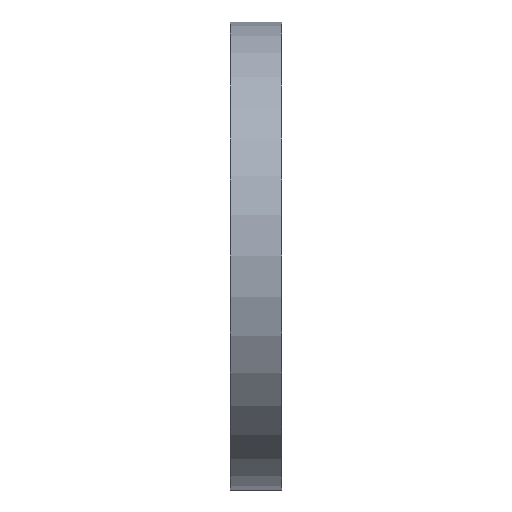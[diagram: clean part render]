
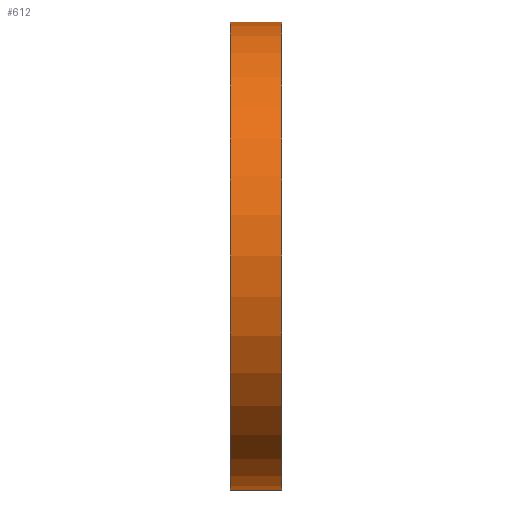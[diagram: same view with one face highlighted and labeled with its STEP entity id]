
A CAD part, left-side view. The second image highlights one B-rep face of the part: STEP entity #612.
In plain terms, the highlighted cylindrical face has radius 117.5 mm (diameter 235 mm), a partial arc.
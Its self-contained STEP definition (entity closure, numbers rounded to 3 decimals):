
#13 = ORIENTED_EDGE ( 'NONE', *, *, #377, .T. ) ;
#24 = ORIENTED_EDGE ( 'NONE', *, *, #428, .F. ) ;
#75 = CIRCLE ( 'NONE', #405, 117.5 ) ;
#103 = CARTESIAN_POINT ( 'NONE',  ( 0., 26., -117.5 ) ) ;
#126 = CARTESIAN_POINT ( 'NONE',  ( 0., 26., 117.5 ) ) ;
#169 = DIRECTION ( 'NONE',  ( 0., 0., 1. ) ) ;
#181 = CARTESIAN_POINT ( 'NONE',  ( 0., 34.695, 0. ) ) ;
#202 = DIRECTION ( 'NONE',  ( 0., 1., 0. ) ) ;
#210 = CARTESIAN_POINT ( 'NONE',  ( 0., 34.695, 117.5 ) ) ;
#222 = AXIS2_PLACEMENT_3D ( 'NONE', #181, #641, #579 ) ;
#236 = EDGE_LOOP ( 'NONE', ( #24, #13, #352, #528 ) ) ;
#254 = CYLINDRICAL_SURFACE ( 'NONE', #222, 117.5 ) ;
#273 = CARTESIAN_POINT ( 'NONE',  ( 0., 0., -117.5 ) ) ;
#278 = CARTESIAN_POINT ( 'NONE',  ( 0., 0., 0. ) ) ;
#287 = CIRCLE ( 'NONE', #782, 117.5 ) ;
#341 = DIRECTION ( 'NONE',  ( 0., 0., 1. ) ) ;
#352 = ORIENTED_EDGE ( 'NONE', *, *, #751, .T. ) ;
#377 = EDGE_CURVE ( 'NONE', #697, #773, #287, .T. ) ;
#398 = VECTOR ( 'NONE', #202, 1000. ) ;
#405 = AXIS2_PLACEMENT_3D ( 'NONE', #832, #483, #169 ) ;
#426 = CARTESIAN_POINT ( 'NONE',  ( 0., 34.695, -117.5 ) ) ;
#428 = EDGE_CURVE ( 'NONE', #697, #487, #492, .T. ) ;
#452 = FACE_OUTER_BOUND ( 'NONE', #236, .T. ) ;
#465 = EDGE_CURVE ( 'NONE', #487, #622, #75, .T. ) ;
#468 = LINE ( 'NONE', #210, #398 ) ;
#483 = DIRECTION ( 'NONE',  ( 0., 1., 0. ) ) ;
#487 = VERTEX_POINT ( 'NONE', #103 ) ;
#492 = LINE ( 'NONE', #426, #646 ) ;
#528 = ORIENTED_EDGE ( 'NONE', *, *, #465, .F. ) ;
#543 = DIRECTION ( 'NONE',  ( 0., 1., 0. ) ) ;
#559 = DIRECTION ( 'NONE',  ( 0., 1., 0. ) ) ;
#579 = DIRECTION ( 'NONE',  ( 0., 0., 1. ) ) ;
#612 = ADVANCED_FACE ( 'NONE', ( #452 ), #254, .T. ) ;
#622 = VERTEX_POINT ( 'NONE', #126 ) ;
#641 = DIRECTION ( 'NONE',  ( 0., 1., 0. ) ) ;
#646 = VECTOR ( 'NONE', #559, 1000. ) ;
#676 = CARTESIAN_POINT ( 'NONE',  ( 0., 0., 117.5 ) ) ;
#697 = VERTEX_POINT ( 'NONE', #273 ) ;
#751 = EDGE_CURVE ( 'NONE', #773, #622, #468, .T. ) ;
#773 = VERTEX_POINT ( 'NONE', #676 ) ;
#782 = AXIS2_PLACEMENT_3D ( 'NONE', #278, #543, #341 ) ;
#832 = CARTESIAN_POINT ( 'NONE',  ( 0., 26., 0. ) ) ;
